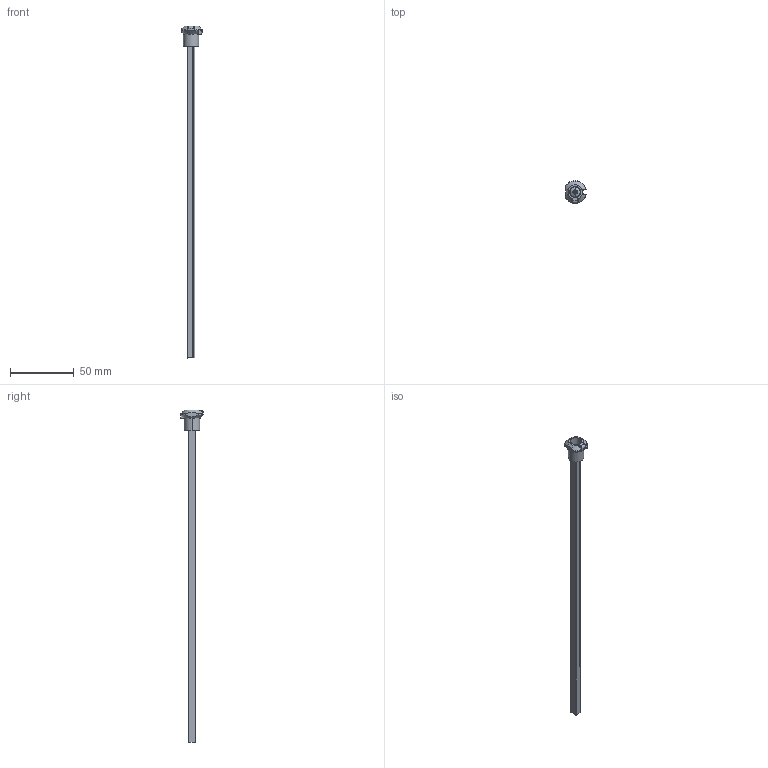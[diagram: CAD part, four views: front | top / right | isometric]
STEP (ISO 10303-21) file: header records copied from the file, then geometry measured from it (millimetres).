
FILE_DESCRIPTION((''),'2;1');
FILE_NAME('10005903030','2020-12-09T19:52:18',('RPampat'),('Rockwell Automation'),'CREO PARAMETRIC BY PTC INC, 2019444','CREO PARAMETRIC BY PTC INC, 2019444','');
FILE_SCHEMA(('CONFIG_CONTROL_DESIGN'));
Length unit declared in the file: millimetre
Products named in the file (1): 10005903030
Bounding box: 15.93 x 17.79 x 260 mm (x, y, z)
Volume: 10249.6 mm3; surface area: 7290.1 mm2
Topology: 1 solids, 3 shells, 124 faces, 334 edges, 213 vertices
Faces by surface type: plane 54, cylinder 43, bspline 12, cone 7, torus 6, sphere 2
Entity records: 4347 total; most frequent: CARTESIAN_POINT 1324, ORIENTED_EDGE 654, DIRECTION 586, EDGE_CURVE 327, AXIS2_PLACEMENT_3D 221, VERTEX_POINT 211, VECTOR 144, LINE 144
